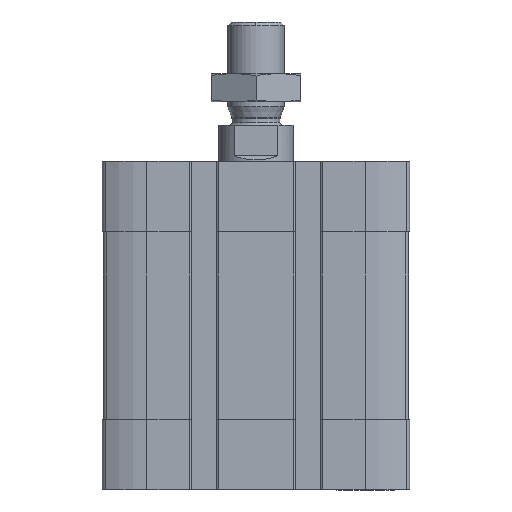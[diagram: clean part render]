
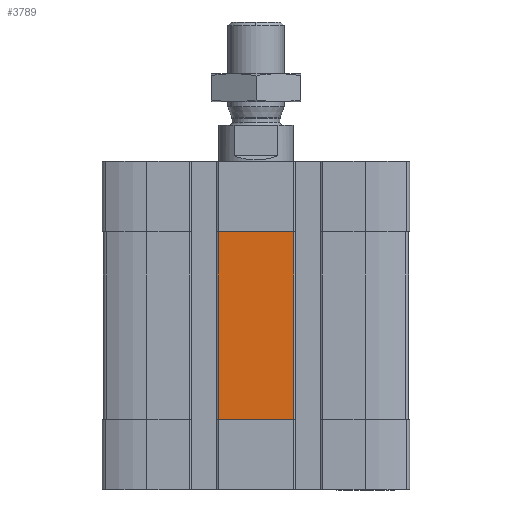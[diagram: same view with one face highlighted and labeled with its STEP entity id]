
A CAD part, front view. The second image highlights one B-rep face of the part: STEP entity #3789.
In plain terms, the highlighted planar face has unit normal (0, -1, 0).
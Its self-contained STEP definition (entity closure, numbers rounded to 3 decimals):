
#169 = CARTESIAN_POINT ( 'NONE',  ( -8., -32.5, -55. ) ) ;
#1542 = CARTESIAN_POINT ( 'NONE',  ( -8., -32.5, -15. ) ) ;
#2698 = PLANE ( 'NONE',  #13177 ) ;
#3652 = DIRECTION ( 'NONE',  ( 0., 0., 1. ) ) ;
#3789 = ADVANCED_FACE ( 'NONE', ( #12696 ), #2698, .T. ) ;
#3932 = DIRECTION ( 'NONE',  ( 0., 0., -1. ) ) ;
#4440 = LINE ( 'NONE', #169, #7365 ) ;
#4747 = VERTEX_POINT ( 'NONE', #5762 ) ;
#4843 = DIRECTION ( 'NONE',  ( -1., 0., 0. ) ) ;
#4920 = ORIENTED_EDGE ( 'NONE', *, *, #10081, .T. ) ;
#4959 = CARTESIAN_POINT ( 'NONE',  ( 8., -32.5, -55. ) ) ;
#5141 = ORIENTED_EDGE ( 'NONE', *, *, #13888, .T. ) ;
#5443 = CARTESIAN_POINT ( 'NONE',  ( -8., -32.5, -55. ) ) ;
#5544 = LINE ( 'NONE', #11019, #11769 ) ;
#5762 = CARTESIAN_POINT ( 'NONE',  ( 8., -32.5, -15. ) ) ;
#6692 = DIRECTION ( 'NONE',  ( 0., 0., -1. ) ) ;
#6768 = VECTOR ( 'NONE', #6692, 1000. ) ;
#7365 = VECTOR ( 'NONE', #7619, 1000. ) ;
#7619 = DIRECTION ( 'NONE',  ( 1., 0., 0. ) ) ;
#7668 = EDGE_LOOP ( 'NONE', ( #4920, #13830, #13852, #5141 ) ) ;
#8820 = CARTESIAN_POINT ( 'NONE',  ( -8., -32.5, -55. ) ) ;
#9612 = CARTESIAN_POINT ( 'NONE',  ( -8., -32.5, -55. ) ) ;
#10081 = EDGE_CURVE ( 'NONE', #11258, #14760, #4440, .T. ) ;
#11019 = CARTESIAN_POINT ( 'NONE',  ( 0., -32.5, -15. ) ) ;
#11258 = VERTEX_POINT ( 'NONE', #9612 ) ;
#11378 = DIRECTION ( 'NONE',  ( 0., -1., 0. ) ) ;
#11621 = VECTOR ( 'NONE', #3652, 1000. ) ;
#11769 = VECTOR ( 'NONE', #4843, 1000. ) ;
#12038 = EDGE_CURVE ( 'NONE', #4747, #14405, #5544, .T. ) ;
#12696 = FACE_OUTER_BOUND ( 'NONE', #7668, .T. ) ;
#13177 = AXIS2_PLACEMENT_3D ( 'NONE', #8820, #11378, #3932 ) ;
#13366 = LINE ( 'NONE', #5443, #6768 ) ;
#13830 = ORIENTED_EDGE ( 'NONE', *, *, #14262, .T. ) ;
#13852 = ORIENTED_EDGE ( 'NONE', *, *, #12038, .T. ) ;
#13888 = EDGE_CURVE ( 'NONE', #14405, #11258, #13366, .T. ) ;
#14262 = EDGE_CURVE ( 'NONE', #14760, #4747, #14906, .T. ) ;
#14405 = VERTEX_POINT ( 'NONE', #1542 ) ;
#14489 = CARTESIAN_POINT ( 'NONE',  ( 8., -32.5, -55. ) ) ;
#14760 = VERTEX_POINT ( 'NONE', #14489 ) ;
#14906 = LINE ( 'NONE', #4959, #11621 ) ;
